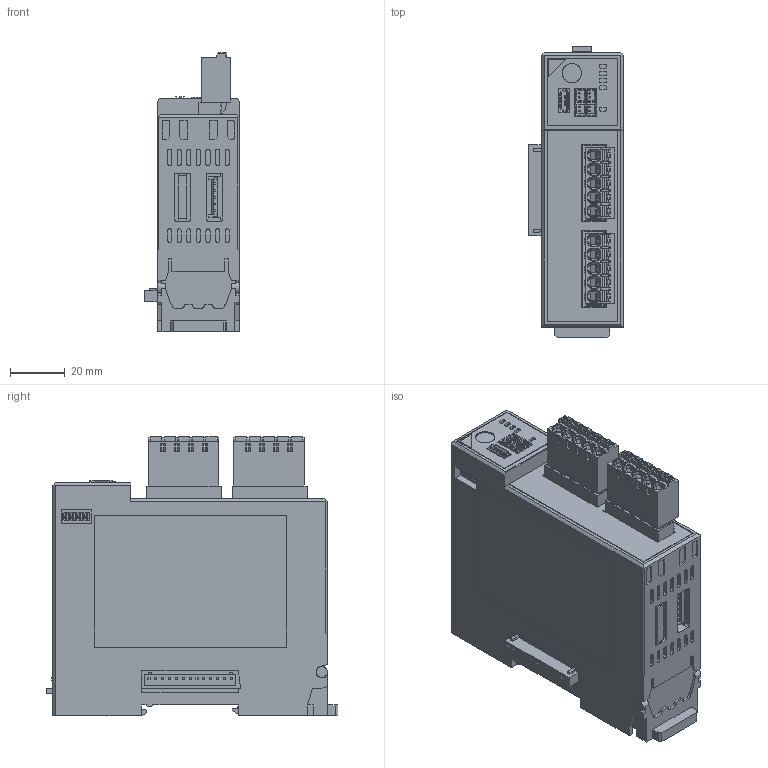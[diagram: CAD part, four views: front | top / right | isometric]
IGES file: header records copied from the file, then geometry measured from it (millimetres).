
Start section: SolidWorks IGES file using analytic representation for surfaces
Bounding box: 34.5 x 106.35 x 102 mm (x, y, z)
Surface area: 44601.1 mm2 (no closed solid volume)
Topology: 0 solids, 0 shells, 3875 faces, 26303 edges, 26265 vertices
Faces by surface type: bspline 2636, revolution 1239
